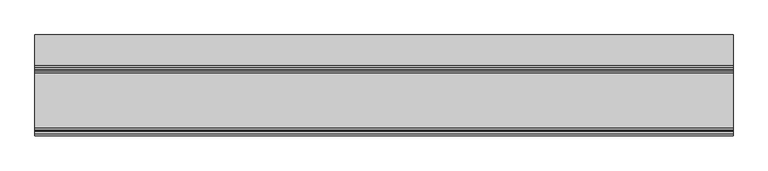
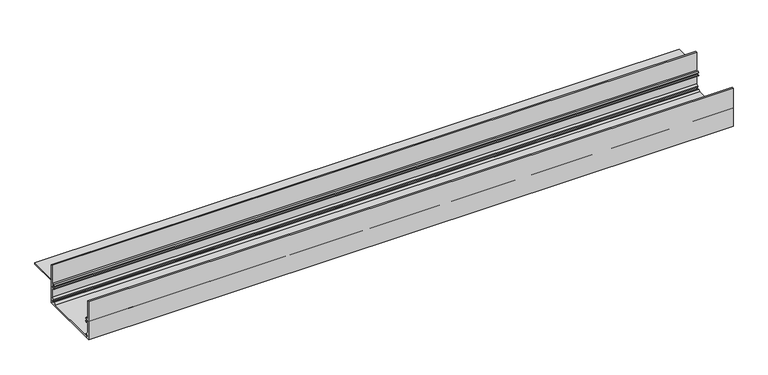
"""IFC4 building model written with IfcOpenShell, lengths in millimetres: proxy geometry, Koryto RENODRAIN : RENODRAIN."""

from ifc_helpers import new_model, si_unit, point, frame, frame_2d, origin, place, context, project, spatial, polyline, circle_curve, trimmed, segment, composite_curve, outline, extrude, source, transform, mapped, element, save


def generic_models_1ec3699d(model_context):
    return source(origin(), model_context, "Body", "SweptSolid", [
        extrude(outline(composite_curve([segment(polyline([(-128.334936, -14.25), (-126.3499995, -15.3960036)]), True, "CONTINUOUS"), segment(trimmed(circle_curve(frame_2d((-128.1676368, -16.0638309)), 1.9364396), [point((-126.3499995, -15.3960036))], [point((-128.1999995, -18.0))], False, "CARTESIAN"), True, "CONTINUOUS"), segment(polyline([(-128.1999995, -18.0), (-132.9999996, -18.0), (-132.9999996, -38.2757359), (-129.3333924, -42.0666072), (-129.834952, -44.5900806)]), True, "CONTINUOUS"), segment(trimmed(circle_curve(frame_2d((-130.4999996, -47.0)), 2.5), [point((-129.834952, -44.5900806))], [point((-128.085185, -46.3529524))], True, "CARTESIAN"), True, "CONTINUOUS"), segment(polyline([(-128.085185, -46.3529524), (-125.8563845, -45.7557471), (-121.8949018, -49.5), (-14.31734, -49.5), (-10.4333924, -45.8333928), (-7.909919, -46.3349524)]), True, "CONTINUOUS"), segment(trimmed(circle_curve(frame_2d((-5.4999995, -47.0)), 2.5), [point((-7.909919, -46.3349524))], [point((-6.1470472, -44.5851854))], True, "CARTESIAN"), True, "CONTINUOUS"), segment(polyline([(-6.1470472, -44.5851854), (-6.7442525, -42.356385), (-3.0878675, -38.487868), (-3.0878675, -18.0), (-7.7999996, -18.0)]), True, "CONTINUOUS"), segment(trimmed(circle_curve(frame_2d((-7.7887962, -15.9651736)), 2.0348573), [point((-7.7999996, -18.0))], [point((-9.7999996, -15.6558113))], False, "CARTESIAN"), True, "CONTINUOUS"), segment(polyline([(-9.7999996, -15.6558113), (-7.6743923, -14.2337004)]), True, "CONTINUOUS"), segment(trimmed(circle_curve(frame_2d((-5.4999996, -13.0)), 2.5), [point((-7.6743923, -14.2337004))], [point((-7.6650631, -11.75))], True, "CARTESIAN"), True, "CONTINUOUS"), segment(polyline([(-7.6650631, -11.75), (-9.6499996, -10.6039964)]), True, "CONTINUOUS"), segment(trimmed(circle_curve(frame_2d((-7.8206077, -9.9445202)), 1.9446294), [point((-9.6499996, -10.6039964))], [point((-7.7999996, -8.0))], False, "CARTESIAN"), True, "CONTINUOUS"), segment(polyline([(-7.7999996, -8.0), (-2.9999996, -8.0), (-2.9999996, 32.0), (5e-07, 32.0), (5e-07, 0.0), (60.0000005, 0.0), (60.0000005, -3.0), (5e-07, -3.0), (5e-07, -52.5), (-135.9999996, -52.5), (-135.9999996, 32.0000001), (-132.9999996, 32.0000001), (-132.9999996, -8.0), (-128.1999995, -8.0)]), True, "CONTINUOUS"), segment(trimmed(circle_curve(frame_2d((-128.2266044, -10.0479666)), 2.0481394), [point((-128.1999995, -8.0))], [point((-126.1999995, -10.3441888))], False, "CARTESIAN"), True, "CONTINUOUS"), segment(polyline([(-126.1999995, -10.3441888), (-128.3256069, -11.7662997)]), True, "CONTINUOUS"), segment(trimmed(circle_curve(frame_2d((-130.4999995, -13.0)), 2.5), [point((-128.3256069, -11.7662997))], [point((-128.334936, -14.25))], True, "CARTESIAN"), True, "CONTINUOUS")], self_intersect=False)), frame((0.0, 0.0, 0.0), z_axis=(1.0, 0.0, 0.0), x_axis=(0.0, 1.0, 0.0)), (0.0, 0.0, 1.0), 1358.0),
    ])


if __name__ == "__main__":
    model = new_model("IFC4")
    model_context = context("Model", 3, world=origin())
    ifc_project = project(units=[si_unit("LENGTHUNIT", "METRE", prefix="MILLI")], contexts=[model_context])
    site = spatial("IfcSite", under=ifc_project)
    building = spatial("IfcBuilding", under=site)
    placement = place(None, origin())
    generic_models_shape = generic_models_1ec3699d(model_context)
    element("IfcBuildingElementProxy", 1, Name="Koryto RENODRAIN : RENODRAIN", ObjectType="Koryto RENODRAIN : RENODRAIN", at=placement, inside=building, context=model_context, shape_type="MappedRepresentation", body=[
        mapped(generic_models_shape, transform((0.0, 0.0, 0.0), x_axis=(1.0, 0.0, 0.0), y_axis=(0.0, 1.0, 0.0), z_axis=(0.0, 0.0, 1.0))),
    ])
    save(model, "model.ifc")
